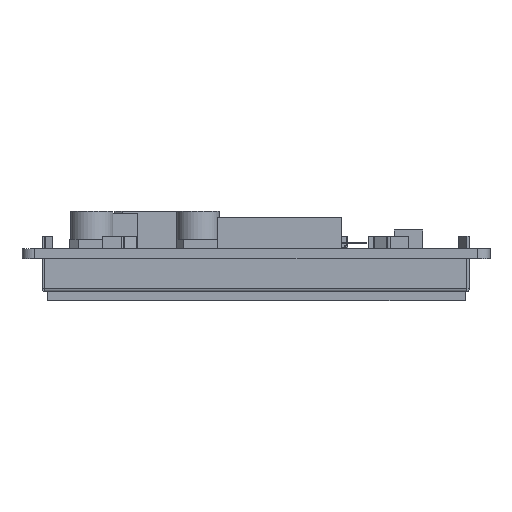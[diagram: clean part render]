
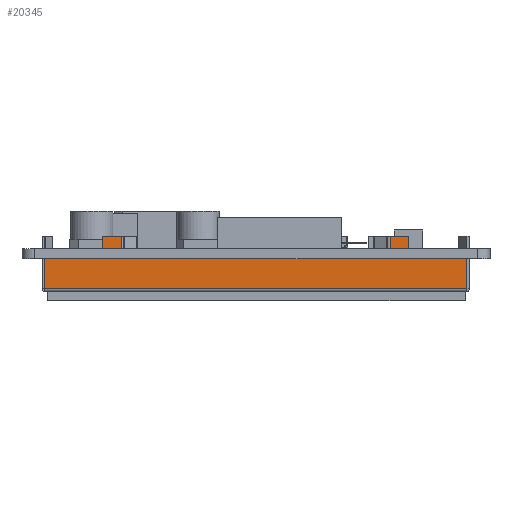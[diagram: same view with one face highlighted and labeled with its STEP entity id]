
A CAD part, left-side view. The second image highlights one B-rep face of the part: STEP entity #20345.
In plain terms, the highlighted planar face has unit normal (-1, 0, 0).
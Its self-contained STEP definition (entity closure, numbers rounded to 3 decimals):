
#7621=LINE('',#77426,#13487);
#7627=LINE('',#77440,#13493);
#7629=LINE('',#77444,#13495);
#7630=LINE('',#77447,#13496);
#7631=LINE('',#77449,#13497);
#7632=LINE('',#77451,#13498);
#7633=LINE('',#77453,#13499);
#7634=LINE('',#77455,#13500);
#7635=LINE('',#77456,#13501);
#7636=LINE('',#77458,#13502);
#7637=LINE('',#77460,#13503);
#7638=LINE('',#77462,#13504);
#7639=LINE('',#77464,#13505);
#7640=LINE('',#77465,#13506);
#7641=LINE('',#77467,#13507);
#7642=LINE('',#77469,#13508);
#13487=VECTOR('',#63551,1.);
#13493=VECTOR('',#63559,1.);
#13495=VECTOR('',#63563,1.);
#13496=VECTOR('',#63564,1.);
#13497=VECTOR('',#63565,1.);
#13498=VECTOR('',#63566,1.);
#13499=VECTOR('',#63567,1.);
#13500=VECTOR('',#63568,1.);
#13501=VECTOR('',#63569,1.);
#13502=VECTOR('',#63570,1.);
#13503=VECTOR('',#63571,1.);
#13504=VECTOR('',#63572,1.);
#13505=VECTOR('',#63573,1.);
#13506=VECTOR('',#63574,1.);
#13507=VECTOR('',#63575,1.);
#13508=VECTOR('',#63576,1.);
#15692=PLANE('',#52009);
#17996=FACE_OUTER_BOUND('',#23324,.T.);
#20345=ADVANCED_FACE('',(#17996),#15692,.F.);
#23324=EDGE_LOOP('',(#36037,#36038,#36039,#36040,#36041,#36042,#36043,#36044,
#36045,#36046,#36047,#36048,#36049,#36050,#36051,#36052));
#36037=ORIENTED_EDGE('',*,*,#47740,.T.);
#36038=ORIENTED_EDGE('',*,*,#47741,.F.);
#36039=ORIENTED_EDGE('',*,*,#47742,.F.);
#36040=ORIENTED_EDGE('',*,*,#47743,.T.);
#36041=ORIENTED_EDGE('',*,*,#47744,.T.);
#36042=ORIENTED_EDGE('',*,*,#47745,.T.);
#36043=ORIENTED_EDGE('',*,*,#47738,.T.);
#36044=ORIENTED_EDGE('',*,*,#47746,.F.);
#36045=ORIENTED_EDGE('',*,*,#47747,.T.);
#36046=ORIENTED_EDGE('',*,*,#47748,.F.);
#36047=ORIENTED_EDGE('',*,*,#47749,.F.);
#36048=ORIENTED_EDGE('',*,*,#47750,.T.);
#36049=ORIENTED_EDGE('',*,*,#47732,.T.);
#36050=ORIENTED_EDGE('',*,*,#47751,.F.);
#36051=ORIENTED_EDGE('',*,*,#47752,.F.);
#36052=ORIENTED_EDGE('',*,*,#47753,.T.);
#41144=VERTEX_POINT('',#77427);
#41145=VERTEX_POINT('',#77428);
#41150=VERTEX_POINT('',#77439);
#41151=VERTEX_POINT('',#77441);
#41152=VERTEX_POINT('',#77445);
#41153=VERTEX_POINT('',#77446);
#41154=VERTEX_POINT('',#77448);
#41155=VERTEX_POINT('',#77450);
#41156=VERTEX_POINT('',#77452);
#41157=VERTEX_POINT('',#77454);
#41158=VERTEX_POINT('',#77457);
#41159=VERTEX_POINT('',#77459);
#41160=VERTEX_POINT('',#77461);
#41161=VERTEX_POINT('',#77463);
#41162=VERTEX_POINT('',#77466);
#41163=VERTEX_POINT('',#77468);
#47732=EDGE_CURVE('',#41144,#41145,#7621,.T.);
#47738=EDGE_CURVE('',#41151,#41150,#7627,.T.);
#47740=EDGE_CURVE('',#41152,#41153,#7629,.T.);
#47741=EDGE_CURVE('',#41154,#41153,#7630,.T.);
#47742=EDGE_CURVE('',#41155,#41154,#7631,.T.);
#47743=EDGE_CURVE('',#41155,#41156,#7632,.T.);
#47744=EDGE_CURVE('',#41156,#41157,#7633,.T.);
#47745=EDGE_CURVE('',#41157,#41151,#7634,.T.);
#47746=EDGE_CURVE('',#41158,#41150,#7635,.T.);
#47747=EDGE_CURVE('',#41158,#41159,#7636,.T.);
#47748=EDGE_CURVE('',#41160,#41159,#7637,.T.);
#47749=EDGE_CURVE('',#41161,#41160,#7638,.T.);
#47750=EDGE_CURVE('',#41161,#41144,#7639,.T.);
#47751=EDGE_CURVE('',#41162,#41145,#7640,.T.);
#47752=EDGE_CURVE('',#41163,#41162,#7641,.T.);
#47753=EDGE_CURVE('',#41163,#41152,#7642,.T.);
#52009=AXIS2_PLACEMENT_3D('',#77470,#63577,#63578);
#63551=DIRECTION('',(0.,1.,0.));
#63559=DIRECTION('',(0.,1.,0.));
#63563=DIRECTION('',(0.,1.,0.));
#63564=DIRECTION('',(0.,0.,-1.));
#63565=DIRECTION('',(0.,-1.,0.));
#63566=DIRECTION('',(0.,0.,-1.));
#63567=DIRECTION('',(0.,1.,0.));
#63568=DIRECTION('',(0.,0.,-1.));
#63569=DIRECTION('',(0.,0.,-1.));
#63570=DIRECTION('',(0.,-1.,0.));
#63571=DIRECTION('',(0.,0.,-1.));
#63572=DIRECTION('',(0.,-1.,0.));
#63573=DIRECTION('',(0.,0.,-1.));
#63574=DIRECTION('',(0.,0.,1.));
#63575=DIRECTION('',(0.,1.,0.));
#63576=DIRECTION('',(0.,0.,1.));
#63577=DIRECTION('',(1.,0.,0.));
#63578=DIRECTION('',(0.,-1.,0.));
#77426=CARTESIAN_POINT('',(67.65,-14.395,-1.6));
#77427=CARTESIAN_POINT('',(67.65,43.765,-1.6));
#77428=CARTESIAN_POINT('',(67.65,53.005,-1.6));
#77439=CARTESIAN_POINT('',(67.65,40.765,-1.6));
#77440=CARTESIAN_POINT('',(67.65,-14.395,-1.6));
#77441=CARTESIAN_POINT('',(67.65,-2.155,-1.6));
#77444=CARTESIAN_POINT('',(67.65,-14.395,-1.6));
#77445=CARTESIAN_POINT('',(67.65,-14.395,-1.6));
#77446=CARTESIAN_POINT('',(67.65,-5.155,-1.6));
#77447=CARTESIAN_POINT('',(67.65,-5.155,0.));
#77448=CARTESIAN_POINT('',(67.65,-5.155,2.));
#77449=CARTESIAN_POINT('',(67.65,-2.19,2.));
#77450=CARTESIAN_POINT('',(67.65,-2.19,2.));
#77451=CARTESIAN_POINT('',(67.65,-2.19,2.));
#77452=CARTESIAN_POINT('',(67.65,-2.19,0.));
#77453=CARTESIAN_POINT('',(67.65,-5.155,0.));
#77454=CARTESIAN_POINT('',(67.65,-2.155,0.));
#77455=CARTESIAN_POINT('',(67.65,-2.155,0.));
#77456=CARTESIAN_POINT('',(67.65,40.765,0.));
#77457=CARTESIAN_POINT('',(67.65,40.765,0.));
#77458=CARTESIAN_POINT('',(67.65,43.765,0.));
#77459=CARTESIAN_POINT('',(67.65,40.754,0.));
#77460=CARTESIAN_POINT('',(67.65,40.754,2.));
#77461=CARTESIAN_POINT('',(67.65,40.754,2.));
#77462=CARTESIAN_POINT('',(67.65,43.765,2.));
#77463=CARTESIAN_POINT('',(67.65,43.765,2.));
#77464=CARTESIAN_POINT('',(67.65,43.765,0.));
#77465=CARTESIAN_POINT('',(67.65,53.005,-6.4));
#77466=CARTESIAN_POINT('',(67.65,53.005,-6.4));
#77467=CARTESIAN_POINT('',(67.65,-14.395,-6.4));
#77468=CARTESIAN_POINT('',(67.65,-14.395,-6.4));
#77469=CARTESIAN_POINT('',(67.65,-14.395,-6.4));
#77470=CARTESIAN_POINT('',(67.65,-14.395,-6.4));
